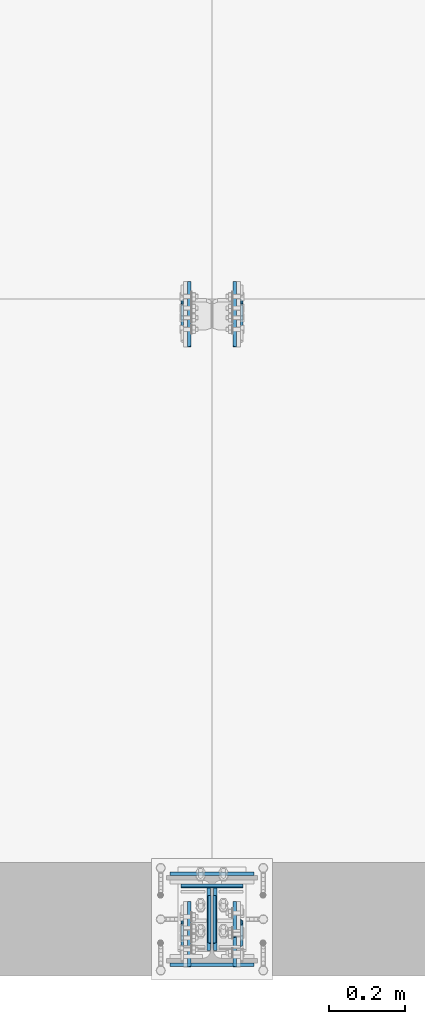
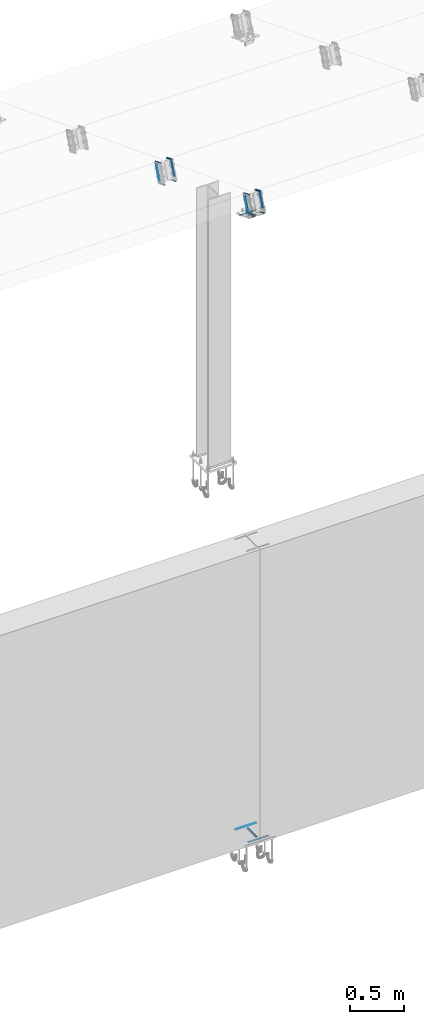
# One storey, part 13 of 72: 38 fasteners.
"""IFC4 building model written with IfcOpenShell, lengths in metres."""

from ifc_helpers import new_model, si_unit, frame, origin_with_axes, place, context, project, spatial, polyline, outline, extrude, type_object, element, save


model = new_model("IFC4")

# Units and contexts
model_context = context("Model", 3, precision=1e-05, world=origin_with_axes())
ifc_project = project(units=[si_unit("LENGTHUNIT", "METRE"), si_unit("AREAUNIT", "SQUARE_METRE"), si_unit("VOLUMEUNIT", "CUBIC_METRE"), si_unit("MASSUNIT", "GRAM", prefix="KILO"), si_unit("TIMEUNIT", "SECOND"), si_unit("PLANEANGLEUNIT", "RADIAN"), si_unit("SOLIDANGLEUNIT", "STERADIAN"), si_unit("THERMODYNAMICTEMPERATUREUNIT", "DEGREE_CELSIUS")], contexts=[model_context])

# Site, building, storey
placement_1 = place(None, origin_with_axes())
site = spatial("IfcSite", under=ifc_project, at=placement_1, Name="Italia", CompositionType="ELEMENT")
building = spatial("IfcBuilding", under=site, at=placement_1, Name="Uffici", CompositionType="ELEMENT")
storey = spatial("IfcBuildingStorey", under=building, at=placement_1, Name="Storey 0", CompositionType="ELEMENT", Elevation=0.0)

# Fasteners
fastener_type_1 = type_object("IfcFastenerType", Name="Collegamento -028_-027", PredefinedType="WELD")
placement_2 = place(placement_1, origin_with_axes())
fastener_1_placement = place(placement_2, origin_with_axes())
element("IfcFastener", 1, at=fastener_1_placement, inside=storey, type_object=fastener_type_1, Name="Collegamento -028_-027", context=model_context, shape_type="SweptSolid", body=[
    extrude(outline(polyline([(0.0, 0.0), (-0.00717354, 0.00695848), (0.0, 0.00695848), (0.0, 0.0)])), frame((6.68005, 1.63499, 6.58409), z_axis=(0.0, -0.361462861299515, -0.932386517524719), x_axis=(1.0, 0.0, 0.0)), (0.0, 0.0, 1.0), 0.1591),
])
fastener_type_2 = type_object("IfcFastenerType", Name="Collegamento -028_-027", PredefinedType="WELD")
fastener_2_placement = place(placement_2, origin_with_axes())
element("IfcFastener", 2, at=fastener_2_placement, inside=storey, type_object=fastener_type_2, Name="Collegamento -028_-027", context=model_context, shape_type="SweptSolid", body=[
    extrude(outline(polyline([(0.0, 0.0), (0.00717354, -0.00695837), (0.0, -0.00695837), (0.0, 0.0)])), frame((6.68005, 1.55938, 6.44277), z_axis=(0.0, 0.36146154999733, 0.932386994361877), x_axis=(-1.0, 0.0, 0.0)), (0.0, 0.0, 1.0), 0.1591),
])
fastener_type_3 = type_object("IfcFastenerType", Name="Collegamento -028_-027", PredefinedType="WELD")
fastener_3_placement = place(placement_2, origin_with_axes())
element("IfcFastener", 3, at=fastener_3_placement, inside=storey, type_object=fastener_type_3, Name="Collegamento -028_-027", context=model_context, shape_type="SweptSolid", body=[
    extrude(outline(polyline([(0.0, 0.0), (-0.00717354, 0.00695848), (0.0, 0.00695848), (0.0, 0.0)])), frame((6.68005, 1.63499, 6.58409), z_axis=(0.0, -0.361462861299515, -0.932386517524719), x_axis=(1.0, 0.0, 0.0)), (0.0, 0.0, 1.0), 0.1591),
])
fastener_type_4 = type_object("IfcFastenerType", Name="Collegamento -028_-027", PredefinedType="WELD")
fastener_4_placement = place(placement_2, origin_with_axes())
element("IfcFastener", 4, at=fastener_4_placement, inside=storey, type_object=fastener_type_4, Name="Collegamento -028_-027", context=model_context, shape_type="SweptSolid", body=[
    extrude(outline(polyline([(0.0, 0.0), (0.00717354, -0.00695837), (0.0, -0.00695837), (0.0, 0.0)])), frame((6.68005, 1.55938, 6.44277), z_axis=(0.0, 0.36146154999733, 0.932386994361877), x_axis=(-1.0, 0.0, 0.0)), (0.0, 0.0, 1.0), 0.1591),
])
fastener_type_5 = type_object("IfcFastenerType", Name="Collegamento -028_-027", PredefinedType="WELD")
fastener_5_placement = place(placement_2, origin_with_axes())
element("IfcFastener", 5, at=fastener_5_placement, inside=storey, type_object=fastener_type_5, Name="Collegamento -028_-027", context=model_context, shape_type="SweptSolid", body=[
    extrude(outline(polyline([(0.0, 0.0), (0.00937366, -0.00909233), (0.0, -0.00909233), (0.0, 0.0)])), frame((6.70005, 1.51041, 6.42806), z_axis=(0.0, 0.932386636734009, -0.361462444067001), x_axis=(-1.0, 0.0, 0.0)), (0.0, 0.0, 1.0), 0.1001),
])
fastener_type_6 = type_object("IfcFastenerType", Name="Collegamento -028_-027", PredefinedType="WELD")
fastener_6_placement = place(placement_2, origin_with_axes())
element("IfcFastener", 6, at=fastener_6_placement, inside=storey, type_object=fastener_type_6, Name="Collegamento -028_-027", context=model_context, shape_type="SweptSolid", body=[
    extrude(outline(polyline([(0.0, 0.0), (-0.00937366, 0.00909185), (0.0, 0.00909185), (0.0, 0.0)])), frame((6.70005, 1.67673, 6.58014), z_axis=(0.0, -0.932386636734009, 0.361462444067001), x_axis=(1.0, 0.0, 0.0)), (0.0, 0.0, 1.0), 0.1001),
])
fastener_type_7 = type_object("IfcFastenerType", Name="Collegamento -028_-029", PredefinedType="WELD")
fastener_7_placement = place(placement_2, origin_with_axes())
element("IfcFastener", 7, at=fastener_7_placement, inside=storey, type_object=fastener_type_7, Name="Collegamento -028_-029", context=model_context, shape_type="SweptSolid", body=[
    extrude(outline(polyline([(0.0, 0.0), (-0.00717354, 0.00695825), (0.0, 0.00695825), (0.0, 0.0)])), frame((6.82995, 1.57748, 6.43575), z_axis=(0.0, 0.361462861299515, 0.932386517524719), x_axis=(-1.0, 0.0, 0.0)), (0.0, 0.0, 1.0), 0.1591),
])
fastener_type_8 = type_object("IfcFastenerType", Name="Collegamento -028_-029", PredefinedType="WELD")
fastener_8_placement = place(placement_2, origin_with_axes())
element("IfcFastener", 8, at=fastener_8_placement, inside=storey, type_object=fastener_type_8, Name="Collegamento -028_-029", context=model_context, shape_type="SweptSolid", body=[
    extrude(outline(polyline([(0.0, 0.0), (0.00717354, -0.00695813), (0.0, -0.00695813), (0.0, 0.0)])), frame((6.82995, 1.61689, 6.59111), z_axis=(0.0, -0.36146154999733, -0.932386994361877), x_axis=(1.0, 0.0, 0.0)), (0.0, 0.0, 1.0), 0.1591),
])
fastener_type_9 = type_object("IfcFastenerType", Name="Collegamento -028_-029", PredefinedType="WELD")
fastener_9_placement = place(placement_2, origin_with_axes())
element("IfcFastener", 9, at=fastener_9_placement, inside=storey, type_object=fastener_type_9, Name="Collegamento -028_-029", context=model_context, shape_type="SweptSolid", body=[
    extrude(outline(polyline([(0.0, 0.0), (-0.00717354, 0.00695825), (0.0, 0.00695825), (0.0, 0.0)])), frame((6.82995, 1.57748, 6.43575), z_axis=(0.0, 0.361462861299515, 0.932386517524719), x_axis=(-1.0, 0.0, 0.0)), (0.0, 0.0, 1.0), 0.1591),
])
fastener_type_10 = type_object("IfcFastenerType", Name="Collegamento -028_-029", PredefinedType="WELD")
fastener_10_placement = place(placement_2, origin_with_axes())
element("IfcFastener", 10, at=fastener_10_placement, inside=storey, type_object=fastener_type_10, Name="Collegamento -028_-029", context=model_context, shape_type="SweptSolid", body=[
    extrude(outline(polyline([(0.0, 0.0), (0.00717354, -0.00695813), (0.0, -0.00695813), (0.0, 0.0)])), frame((6.82995, 1.61689, 6.59111), z_axis=(0.0, -0.36146154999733, -0.932386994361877), x_axis=(1.0, 0.0, 0.0)), (0.0, 0.0, 1.0), 0.1591),
])
fastener_type_11 = type_object("IfcFastenerType", Name="Collegamento -028_-029", PredefinedType="WELD")
fastener_11_placement = place(placement_2, origin_with_axes())
element("IfcFastener", 11, at=fastener_11_placement, inside=storey, type_object=fastener_type_11, Name="Collegamento -028_-029", context=model_context, shape_type="SweptSolid", body=[
    extrude(outline(polyline([(0.0, 0.0), (0.00937366, -0.00909233), (0.0, -0.00909233), (0.0, 0.0)])), frame((6.80995, 1.60375, 6.39188), z_axis=(0.0, -0.932386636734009, 0.361462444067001), x_axis=(1.0, 0.0, 0.0)), (0.0, 0.0, 1.0), 0.1001),
])
fastener_type_12 = type_object("IfcFastenerType", Name="Collegamento -028_-029", PredefinedType="WELD")
fastener_12_placement = place(placement_2, origin_with_axes())
element("IfcFastener", 12, at=fastener_12_placement, inside=storey, type_object=fastener_type_12, Name="Collegamento -028_-029", context=model_context, shape_type="SweptSolid", body=[
    extrude(outline(polyline([(0.0, 0.0), (-0.00937366, 0.00909233), (0.0, 0.00909233), (0.0, 0.0)])), frame((6.80995, 1.5834, 6.61633), z_axis=(0.0, 0.932386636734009, -0.361462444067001), x_axis=(-1.0, 0.0, 0.0)), (0.0, 0.0, 1.0), 0.1001),
])
fastener_type_13 = type_object("IfcFastenerType", Name="Collegamenti 0001_0101 0002_0102 0003_0103 0004_0104 0005_0105 0011_0111 0012_0112 0013_0113 0014_0114 0015_0115", PredefinedType="WELD")
fastener_13_placement = place(placement_2, origin_with_axes())
element("IfcFastener", 13, at=fastener_13_placement, inside=storey, type_object=fastener_type_13, Name="Collegamenti 0001_0101 0002_0102 0003_0103 0004_0104 0005_0105 0011_0111 0012_0112 0013_0113 0014_0114 0015_0115", context=model_context, shape_type="SweptSolid", body=[
    extrude(outline(polyline([(0.0, 0.0), (0.00986816, 0.0101734), (0.00986816, 0.0), (0.0, 0.0)])), frame((6.86505, 0.124818, 0.01995), z_axis=(-1.0, 6.7701649e-08, 0.0), x_axis=(-6.7701649e-08, -1.0, 0.0)), (0.0, 0.0, 1.0), 0.2201),
])
fastener_type_14 = type_object("IfcFastenerType", Name="Collegamenti 0001_0101 0002_0102 0003_0103 0004_0104 0005_0105 0011_0111 0012_0112 0013_0113 0014_0114 0015_0115", PredefinedType="WELD")
fastener_14_placement = place(placement_2, origin_with_axes())
element("IfcFastener", 14, at=fastener_14_placement, inside=storey, type_object=fastener_type_14, Name="Collegamenti 0001_0101 0002_0102 0003_0103 0004_0104 0005_0105 0011_0111 0012_0112 0013_0113 0014_0114 0015_0115", context=model_context, shape_type="SweptSolid", body=[
    extrude(outline(polyline([(0.0, 0.0), (0.00986816, 0.0101734), (0.00986816, 0.0), (0.0, 0.0)])), frame((6.64495, -0.124818, 0.01995), z_axis=(1.0, -6.7701649e-08, 0.0), x_axis=(6.7701649e-08, 1.0, 0.0)), (0.0, 0.0, 1.0), 0.2201),
])
fastener_type_15 = type_object("IfcFastenerType", Name="Collegamenti 0001_0101 0002_0102 0003_0103 0004_0104 0005_0105 0011_0111 0012_0112 0013_0113 0014_0114 0015_0115", PredefinedType="WELD")
fastener_15_placement = place(placement_2, origin_with_axes())
element("IfcFastener", 15, at=fastener_15_placement, inside=storey, type_object=fastener_type_15, Name="Collegamenti 0001_0101 0002_0102 0003_0103 0004_0104 0005_0105 0011_0111 0012_0112 0013_0113 0014_0114 0015_0115", context=model_context, shape_type="SweptSolid", body=[
    extrude(outline(polyline([(0.0, 0.0), (0.00986814, 0.0101734), (0.00986814, 0.0), (0.0, 0.0)])), frame((6.76857, -0.08205, 0.01995), z_axis=(0.0, 1.0, 0.0), x_axis=(-1.0, 0.0, 0.0)), (0.0, 0.0, 1.0), 0.1641),
])
fastener_type_16 = type_object("IfcFastenerType", Name="Collegamenti 0001_0101 0002_0102 0003_0103 0004_0104 0005_0105 0011_0111 0012_0112 0013_0113 0014_0114 0015_0115", PredefinedType="WELD")
fastener_16_placement = place(placement_2, origin_with_axes())
element("IfcFastener", 16, at=fastener_16_placement, inside=storey, type_object=fastener_type_16, Name="Collegamenti 0001_0101 0002_0102 0003_0103 0004_0104 0005_0105 0011_0111 0012_0112 0013_0113 0014_0114 0015_0115", context=model_context, shape_type="SweptSolid", body=[
    extrude(outline(polyline([(0.0, 0.0), (0.00986814, 0.0101734), (0.00986814, 0.0), (0.0, 0.0)])), frame((6.74143, 0.08205, 0.01995), z_axis=(0.0, -1.0, 0.0), x_axis=(1.0, 0.0, 0.0)), (0.0, 0.0, 1.0), 0.1641),
])
fastener_type_17 = type_object("IfcFastenerType", Name="Collegamenti 0001_0101 0002_0102 0003_0103 0004_0104 0005_0105 0011_0111 0012_0112 0013_0113 0014_0114 0015_0115", PredefinedType="WELD")
fastener_17_placement = place(placement_2, origin_with_axes())
element("IfcFastener", 17, at=fastener_17_placement, inside=storey, type_object=fastener_type_17, Name="Collegamenti 0001_0101 0002_0102 0003_0103 0004_0104 0005_0105 0011_0111 0012_0112 0013_0113 0014_0114 0015_0115", context=model_context, shape_type="SweptSolid", body=[
    extrude(outline(polyline([(0.0, 0.0), (0.00986816, 0.0101734), (0.00986816, 0.0), (0.0, 0.0)])), frame((6.86505, 0.124818, 0.01995), z_axis=(-1.0, 6.7701649e-08, 0.0), x_axis=(-6.7701649e-08, -1.0, 0.0)), (0.0, 0.0, 1.0), 0.2201),
])
fastener_type_18 = type_object("IfcFastenerType", Name="Collegamenti 0001_0101 0002_0102 0003_0103 0004_0104 0005_0105 0011_0111 0012_0112 0013_0113 0014_0114 0015_0115", PredefinedType="WELD")
fastener_18_placement = place(placement_2, origin_with_axes())
element("IfcFastener", 18, at=fastener_18_placement, inside=storey, type_object=fastener_type_18, Name="Collegamenti 0001_0101 0002_0102 0003_0103 0004_0104 0005_0105 0011_0111 0012_0112 0013_0113 0014_0114 0015_0115", context=model_context, shape_type="SweptSolid", body=[
    extrude(outline(polyline([(0.0, 0.0), (0.00986816, 0.0101734), (0.00986816, 0.0), (0.0, 0.0)])), frame((6.64495, -0.124818, 0.01995), z_axis=(1.0, -6.7701649e-08, 0.0), x_axis=(6.7701649e-08, 1.0, 0.0)), (0.0, 0.0, 1.0), 0.2201),
])
fastener_type_19 = type_object("IfcFastenerType", Name="Collegamenti 0001_0101 0002_0102 0003_0103 0004_0104 0005_0105 0011_0111 0012_0112 0013_0113 0014_0114 0015_0115", PredefinedType="WELD")
fastener_19_placement = place(placement_2, origin_with_axes())
element("IfcFastener", 19, at=fastener_19_placement, inside=storey, type_object=fastener_type_19, Name="Collegamenti 0001_0101 0002_0102 0003_0103 0004_0104 0005_0105 0011_0111 0012_0112 0013_0113 0014_0114 0015_0115", context=model_context, shape_type="SweptSolid", body=[
    extrude(outline(polyline([(0.0, 0.0), (0.00986814, 0.0101734), (0.00986814, 0.0), (0.0, 0.0)])), frame((6.76857, -0.08205, 0.01995), z_axis=(0.0, 1.0, 0.0), x_axis=(-1.0, 0.0, 0.0)), (0.0, 0.0, 1.0), 0.1641),
])
fastener_type_20 = type_object("IfcFastenerType", Name="Collegamenti 0001_0101 0002_0102 0003_0103 0004_0104 0005_0105 0011_0111 0012_0112 0013_0113 0014_0114 0015_0115", PredefinedType="WELD")
fastener_20_placement = place(placement_2, origin_with_axes())
element("IfcFastener", 20, at=fastener_20_placement, inside=storey, type_object=fastener_type_20, Name="Collegamenti 0001_0101 0002_0102 0003_0103 0004_0104 0005_0105 0011_0111 0012_0112 0013_0113 0014_0114 0015_0115", context=model_context, shape_type="SweptSolid", body=[
    extrude(outline(polyline([(0.0, 0.0), (0.00986814, 0.0101734), (0.00986814, 0.0), (0.0, 0.0)])), frame((6.74143, 0.08205, 0.01995), z_axis=(0.0, -1.0, 0.0), x_axis=(1.0, 0.0, 0.0)), (0.0, 0.0, 1.0), 0.1641),
])
fastener_type_21 = type_object("IfcFastenerType", Name="Collegamento 0203_0103", PredefinedType="WELD")
fastener_21_placement = place(placement_2, origin_with_axes())
element("IfcFastener", 21, at=fastener_21_placement, inside=storey, type_object=fastener_type_21, Name="Collegamento 0203_0103", context=model_context, shape_type="SweptSolid", body=[
    extrude(outline(polyline([(0.0, 0.0), (-0.0103468, -0.00475407), (-0.00739191, 0.00286627), (0.0, 0.0)])), frame((6.67295, 0.0928635, 6.952), z_axis=(1.0, 0.0, 0.0), x_axis=(0.0, 1.0, 0.0)), (0.0, 0.0, 1.0), 0.164101),
])
fastener_type_22 = type_object("IfcFastenerType", Name="Collegamento 0203_0103", PredefinedType="WELD")
fastener_22_placement = place(placement_2, origin_with_axes())
element("IfcFastener", 22, at=fastener_22_placement, inside=storey, type_object=fastener_type_22, Name="Collegamento 0203_0103", context=model_context, shape_type="SweptSolid", body=[
    extrude(outline(polyline([(0.0, 0.0), (-0.00792837, -0.00817299), (-0.00792837, 0.0), (0.0, 0.0)])), frame((6.76588, 0.0620793, 6.96393), z_axis=(0.0, -0.932361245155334, 0.361528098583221), x_axis=(1.0, 0.0, 0.0)), (0.0, 0.0, 1.0), 0.133127),
])
fastener_type_23 = type_object("IfcFastenerType", Name="Collegamento 0203_0103", PredefinedType="WELD")
fastener_23_placement = place(placement_2, origin_with_axes())
element("IfcFastener", 23, at=fastener_23_placement, inside=storey, type_object=fastener_type_23, Name="Collegamento 0203_0103", context=model_context, shape_type="SweptSolid", body=[
    extrude(outline(polyline([(0.0, 0.0), (-0.00792837, -0.00817299), (-0.00792837, 0.0), (0.0, 0.0)])), frame((6.74412, -0.062043, 7.01206), z_axis=(0.0, 0.932361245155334, -0.361528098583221), x_axis=(-1.0, 0.0, 0.0)), (0.0, 0.0, 1.0), 0.133127),
])
fastener_type_24 = type_object("IfcFastenerType", Name="Collegamento 0203_0103", PredefinedType="WELD")
fastener_24_placement = place(placement_2, origin_with_axes())
element("IfcFastener", 24, at=fastener_24_placement, inside=storey, type_object=fastener_type_24, Name="Collegamento 0203_0103", context=model_context, shape_type="SweptSolid", body=[
    extrude(outline(polyline([(0.0, 0.0), (-0.0103468, -0.00475407), (-0.00739191, 0.00286627), (0.0, 0.0)])), frame((6.67295, 0.0928635, 6.952), z_axis=(1.0, 0.0, 0.0), x_axis=(0.0, 1.0, 0.0)), (0.0, 0.0, 1.0), 0.164101),
])
fastener_type_25 = type_object("IfcFastenerType", Name="Collegamento 0203_0103", PredefinedType="WELD")
fastener_25_placement = place(placement_2, origin_with_axes())
element("IfcFastener", 25, at=fastener_25_placement, inside=storey, type_object=fastener_type_25, Name="Collegamento 0203_0103", context=model_context, shape_type="SweptSolid", body=[
    extrude(outline(polyline([(0.0, 0.0), (-0.00792837, -0.00817299), (-0.00792837, 0.0), (0.0, 0.0)])), frame((6.76588, 0.0620793, 6.96393), z_axis=(0.0, -0.932361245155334, 0.361528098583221), x_axis=(1.0, 0.0, 0.0)), (0.0, 0.0, 1.0), 0.133127),
])
fastener_type_26 = type_object("IfcFastenerType", Name="Collegamento 0203_0103", PredefinedType="WELD")
fastener_26_placement = place(placement_2, origin_with_axes())
element("IfcFastener", 26, at=fastener_26_placement, inside=storey, type_object=fastener_type_26, Name="Collegamento 0203_0103", context=model_context, shape_type="SweptSolid", body=[
    extrude(outline(polyline([(0.0, 0.0), (-0.00792837, -0.00817299), (-0.00792837, 0.0), (0.0, 0.0)])), frame((6.74412, -0.062043, 7.01206), z_axis=(0.0, 0.932361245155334, -0.361528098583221), x_axis=(-1.0, 0.0, 0.0)), (0.0, 0.0, 1.0), 0.133127),
])
fastener_type_27 = type_object("IfcFastenerType", Name="Collegamento 0203_0202", PredefinedType="WELD")
fastener_27_placement = place(placement_2, origin_with_axes())
element("IfcFastener", 27, at=fastener_27_placement, inside=storey, type_object=fastener_type_27, Name="Collegamento 0203_0202", context=model_context, shape_type="SweptSolid", body=[
    extrude(outline(polyline([(0.0, 0.0), (-0.00717354, 0.00695801), (0.0, 0.00695801), (0.0, 0.0)])), frame((6.68005, 0.00165956, 7.21742), z_axis=(0.0, -0.361462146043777, -0.932386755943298), x_axis=(1.0, 0.0, 0.0)), (0.0, 0.0, 1.0), 0.1591),
])
fastener_type_28 = type_object("IfcFastenerType", Name="Collegamento 0203_0202", PredefinedType="WELD")
fastener_28_placement = place(placement_2, origin_with_axes())
element("IfcFastener", 28, at=fastener_28_placement, inside=storey, type_object=fastener_type_28, Name="Collegamento 0203_0202", context=model_context, shape_type="SweptSolid", body=[
    extrude(outline(polyline([(0.0, 0.0), (0.00717354, -0.00695825), (0.0, -0.00695825), (0.0, 0.0)])), frame((6.68005, -0.0739523, 7.0761), z_axis=(0.0, 0.36146005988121, 0.932387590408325), x_axis=(-1.0, 0.0, 0.0)), (0.0, 0.0, 1.0), 0.1591),
])
fastener_type_29 = type_object("IfcFastenerType", Name="Collegamento 0203_0202", PredefinedType="WELD")
fastener_29_placement = place(placement_2, origin_with_axes())
element("IfcFastener", 29, at=fastener_29_placement, inside=storey, type_object=fastener_type_29, Name="Collegamento 0203_0202", context=model_context, shape_type="SweptSolid", body=[
    extrude(outline(polyline([(0.0, 0.0), (-0.00717354, 0.00695801), (0.0, 0.00695801), (0.0, 0.0)])), frame((6.68005, 0.00165956, 7.21742), z_axis=(0.0, -0.361462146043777, -0.932386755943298), x_axis=(1.0, 0.0, 0.0)), (0.0, 0.0, 1.0), 0.1591),
])
fastener_type_30 = type_object("IfcFastenerType", Name="Collegamento 0203_0202", PredefinedType="WELD")
fastener_30_placement = place(placement_2, origin_with_axes())
element("IfcFastener", 30, at=fastener_30_placement, inside=storey, type_object=fastener_type_30, Name="Collegamento 0203_0202", context=model_context, shape_type="SweptSolid", body=[
    extrude(outline(polyline([(0.0, 0.0), (0.00717354, -0.00695825), (0.0, -0.00695825), (0.0, 0.0)])), frame((6.68005, -0.0739523, 7.0761), z_axis=(0.0, 0.36146005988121, 0.932387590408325), x_axis=(-1.0, 0.0, 0.0)), (0.0, 0.0, 1.0), 0.1591),
])
fastener_type_31 = type_object("IfcFastenerType", Name="Collegamento 0203_0202", PredefinedType="WELD")
fastener_31_placement = place(placement_2, origin_with_axes())
element("IfcFastener", 31, at=fastener_31_placement, inside=storey, type_object=fastener_type_31, Name="Collegamento 0203_0202", context=model_context, shape_type="SweptSolid", body=[
    extrude(outline(polyline([(0.0, 0.0), (0.00937366, -0.00909233), (0.0, -0.00909233), (0.0, 0.0)])), frame((6.70005, -0.122918, 7.0614), z_axis=(0.0, 0.932386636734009, -0.361462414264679), x_axis=(-1.0, 0.0, 0.0)), (0.0, 0.0, 1.0), 0.1001),
])
fastener_type_32 = type_object("IfcFastenerType", Name="Collegamento 0203_0202", PredefinedType="WELD")
fastener_32_placement = place(placement_2, origin_with_axes())
element("IfcFastener", 32, at=fastener_32_placement, inside=storey, type_object=fastener_type_32, Name="Collegamento 0203_0202", context=model_context, shape_type="SweptSolid", body=[
    extrude(outline(polyline([(0.0, 0.0), (-0.00937366, 0.00909233), (0.0, 0.00909233), (0.0, 0.0)])), frame((6.70005, 0.0433989, 7.21348), z_axis=(0.0, -0.932386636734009, 0.361462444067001), x_axis=(1.0, 0.0, 0.0)), (0.0, 0.0, 1.0), 0.1001),
])
fastener_type_33 = type_object("IfcFastenerType", Name="Collegamento 0203_0204", PredefinedType="WELD")
fastener_33_placement = place(placement_2, origin_with_axes())
element("IfcFastener", 33, at=fastener_33_placement, inside=storey, type_object=fastener_type_33, Name="Collegamento 0203_0204", context=model_context, shape_type="SweptSolid", body=[
    extrude(outline(polyline([(0.0, 0.0), (-0.00717354, 0.00695801), (0.0, 0.00695801), (0.0, 0.0)])), frame((6.82995, -0.055849, 7.06908), z_axis=(0.0, 0.3614621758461, 0.932386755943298), x_axis=(-1.0, 0.0, 0.0)), (0.0, 0.0, 1.0), 0.1591),
])
fastener_type_34 = type_object("IfcFastenerType", Name="Collegamento 0203_0204", PredefinedType="WELD")
fastener_34_placement = place(placement_2, origin_with_axes())
element("IfcFastener", 34, at=fastener_34_placement, inside=storey, type_object=fastener_type_34, Name="Collegamento 0203_0204", context=model_context, shape_type="SweptSolid", body=[
    extrude(outline(polyline([(0.0, 0.0), (0.00717354, -0.00695825), (0.0, -0.00695825), (0.0, 0.0)])), frame((6.82995, -0.0164439, 7.22444), z_axis=(0.0, -0.361460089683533, -0.932387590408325), x_axis=(1.0, 0.0, 0.0)), (0.0, 0.0, 1.0), 0.1591),
])
fastener_type_35 = type_object("IfcFastenerType", Name="Collegamento 0203_0204", PredefinedType="WELD")
fastener_35_placement = place(placement_2, origin_with_axes())
element("IfcFastener", 35, at=fastener_35_placement, inside=storey, type_object=fastener_type_35, Name="Collegamento 0203_0204", context=model_context, shape_type="SweptSolid", body=[
    extrude(outline(polyline([(0.0, 0.0), (-0.00717354, 0.00695801), (0.0, 0.00695801), (0.0, 0.0)])), frame((6.82995, -0.055849, 7.06908), z_axis=(0.0, 0.3614621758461, 0.932386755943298), x_axis=(-1.0, 0.0, 0.0)), (0.0, 0.0, 1.0), 0.1591),
])
fastener_type_36 = type_object("IfcFastenerType", Name="Collegamento 0203_0204", PredefinedType="WELD")
fastener_36_placement = place(placement_2, origin_with_axes())
element("IfcFastener", 36, at=fastener_36_placement, inside=storey, type_object=fastener_type_36, Name="Collegamento 0203_0204", context=model_context, shape_type="SweptSolid", body=[
    extrude(outline(polyline([(0.0, 0.0), (0.00717354, -0.00695825), (0.0, -0.00695825), (0.0, 0.0)])), frame((6.82995, -0.0164439, 7.22444), z_axis=(0.0, -0.361460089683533, -0.932387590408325), x_axis=(1.0, 0.0, 0.0)), (0.0, 0.0, 1.0), 0.1591),
])
fastener_type_37 = type_object("IfcFastenerType", Name="Collegamento 0203_0204", PredefinedType="WELD")
fastener_37_placement = place(placement_2, origin_with_axes())
element("IfcFastener", 37, at=fastener_37_placement, inside=storey, type_object=fastener_type_37, Name="Collegamento 0203_0204", context=model_context, shape_type="SweptSolid", body=[
    extrude(outline(polyline([(0.0, 0.0), (0.00937366, -0.00909233), (0.0, -0.00909233), (0.0, 0.0)])), frame((6.80995, -0.0295861, 7.02522), z_axis=(0.0, -0.932386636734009, 0.361462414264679), x_axis=(1.0, 0.0, 0.0)), (0.0, 0.0, 1.0), 0.1001),
])
fastener_type_38 = type_object("IfcFastenerType", Name="Collegamento 0203_0204", PredefinedType="WELD")
fastener_38_placement = place(placement_2, origin_with_axes())
element("IfcFastener", 38, at=fastener_38_placement, inside=storey, type_object=fastener_type_38, Name="Collegamento 0203_0204", context=model_context, shape_type="SweptSolid", body=[
    extrude(outline(polyline([(0.0, 0.0), (-0.00937366, 0.00909233), (0.0, 0.00909233), (0.0, 0.0)])), frame((6.80995, -0.049933, 7.24966), z_axis=(0.0, 0.932386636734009, -0.361462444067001), x_axis=(-1.0, 0.0, 0.0)), (0.0, 0.0, 1.0), 0.1001),
])

save(model, "model.ifc")
